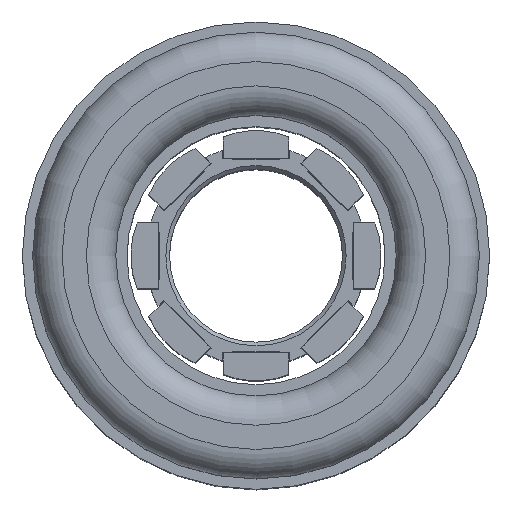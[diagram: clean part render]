
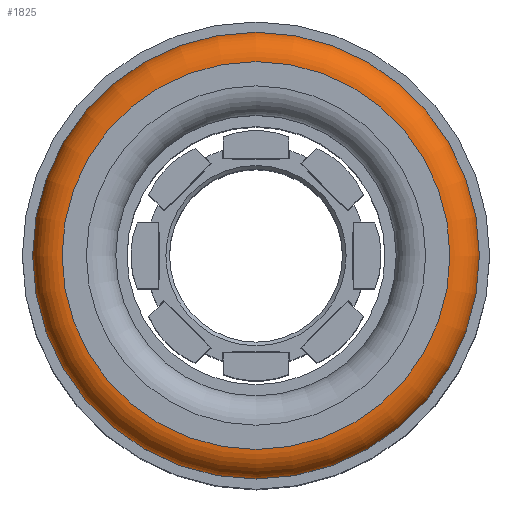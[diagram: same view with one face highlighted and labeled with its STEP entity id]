
A CAD part, top view. The second image highlights one B-rep face of the part: STEP entity #1825.
In plain terms, the highlighted toroidal (fillet/blend) face has major radius 26.35 mm and minor radius 4 mm.
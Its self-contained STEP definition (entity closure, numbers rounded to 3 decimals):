
#165=TOROIDAL_SURFACE($,#1943,26.35,4.);
#172=FACE_BOUND($,#376,.T.);
#276=FACE_OUTER_BOUND($,#375,.T.);
#375=EDGE_LOOP($,(#1324));
#376=EDGE_LOOP($,(#1325));
#492=CIRCLE($,#1942,26.35);
#493=CIRCLE($,#1944,30.35);
#910=VERTEX_POINT($,#2698);
#911=VERTEX_POINT($,#2701);
#1076=EDGE_CURVE($,#910,#910,#492,.T.);
#1077=EDGE_CURVE($,#911,#911,#493,.T.);
#1324=ORIENTED_EDGE($,*,*,#1077,.F.);
#1325=ORIENTED_EDGE($,*,*,#1076,.T.);
#1825=ADVANCED_FACE($,(#276,#172),#165,.T.);
#1942=AXIS2_PLACEMENT_3D($,#2699,#2154,#2155);
#1943=AXIS2_PLACEMENT_3D($,#2700,#2156,#2157);
#1944=AXIS2_PLACEMENT_3D($,#2702,#2158,#2159);
#2154=DIRECTION('center_axis',(0.,0.,-1.));
#2155=DIRECTION('ref_axis',(0.,1.,0.));
#2156=DIRECTION('center_axis',(0.,0.,-1.));
#2157=DIRECTION('ref_axis',(-1.,0.,0.));
#2158=DIRECTION('center_axis',(0.,0.,-1.));
#2159=DIRECTION('ref_axis',(0.,1.,0.));
#2698=CARTESIAN_POINT('',(0.,26.35,35.));
#2699=CARTESIAN_POINT('Origin',(0.,0.,35.));
#2700=CARTESIAN_POINT('Origin',(0.,0.,31.));
#2701=CARTESIAN_POINT('',(0.,30.35,31.));
#2702=CARTESIAN_POINT('Origin',(0.,0.,31.));
